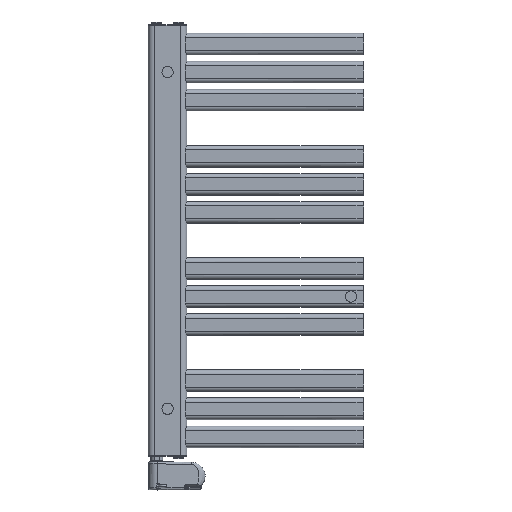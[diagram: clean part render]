
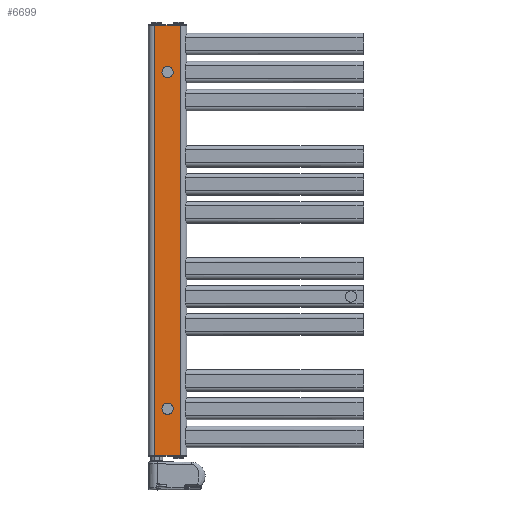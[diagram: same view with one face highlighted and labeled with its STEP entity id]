
A CAD part, top view. The second image highlights one B-rep face of the part: STEP entity #6699.
In plain terms, the highlighted planar face has unit normal (0, 0, 1).
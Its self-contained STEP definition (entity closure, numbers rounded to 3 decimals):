
#3202=DIRECTION('',(0.,1.,0.));
#3203=VECTOR('',#3202,996.4);
#3204=CARTESIAN_POINT('',(75.,2.,15.));
#3205=LINE('',#3204,#3203);
#3941=DIRECTION('',(1.,0.,0.));
#3942=VECTOR('',#3941,60.);
#3943=CARTESIAN_POINT('',(15.,998.4,15.));
#3944=LINE('',#3943,#3942);
#3948=DIRECTION('',(-1.,0.,0.));
#3949=VECTOR('',#3948,60.);
#3950=CARTESIAN_POINT('',(75.,2.,15.));
#3951=LINE('',#3950,#3949);
#3955=DIRECTION('',(0.,1.,0.));
#3956=VECTOR('',#3955,996.4);
#3957=CARTESIAN_POINT('',(15.,2.,15.));
#3958=LINE('',#3957,#3956);
#3962=CARTESIAN_POINT('',(45.,890.2,15.));
#3963=DIRECTION('',(0.,0.,1.));
#3964=DIRECTION('',(1.,0.,0.));
#3965=AXIS2_PLACEMENT_3D('',#3962,#3963,#3964);
#3970=CARTESIAN_POINT('',(45.,890.2,15.));
#3971=DIRECTION('',(0.,0.,1.));
#3972=DIRECTION('',(-1.,0.,0.));
#3973=AXIS2_PLACEMENT_3D('',#3970,#3971,#3972);
#3978=CARTESIAN_POINT('',(45.,110.2,15.));
#3979=DIRECTION('',(0.,0.,1.));
#3980=DIRECTION('',(1.,0.,0.));
#3981=AXIS2_PLACEMENT_3D('',#3978,#3979,#3980);
#3986=CARTESIAN_POINT('',(45.,110.2,15.));
#3987=DIRECTION('',(0.,0.,1.));
#3988=DIRECTION('',(-1.,0.,0.));
#3989=AXIS2_PLACEMENT_3D('',#3986,#3987,#3988);
#5252=CARTESIAN_POINT('',(15.,998.4,15.));
#5253=VERTEX_POINT('',#5252);
#5256=CARTESIAN_POINT('',(75.,998.4,15.));
#5257=VERTEX_POINT('',#5256);
#5262=CARTESIAN_POINT('',(75.,2.,15.));
#5263=CARTESIAN_POINT('',(15.,2.,15.));
#5264=VERTEX_POINT('',#5262);
#5265=VERTEX_POINT('',#5263);
#5314=CARTESIAN_POINT('',(54.75,890.2,15.));
#5315=CARTESIAN_POINT('',(35.25,890.2,15.));
#5316=VERTEX_POINT('',#5314);
#5317=VERTEX_POINT('',#5315);
#5318=CARTESIAN_POINT('',(54.75,110.2,15.));
#5319=CARTESIAN_POINT('',(35.25,110.2,15.));
#5320=VERTEX_POINT('',#5318);
#5321=VERTEX_POINT('',#5319);
#6675=CARTESIAN_POINT('',(15.,0.,15.));
#6676=DIRECTION('',(0.,0.,1.));
#6677=DIRECTION('',(1.,0.,0.));
#6678=AXIS2_PLACEMENT_3D('',#6675,#6676,#6677);
#6679=PLANE('',#6678);
#6681=ORIENTED_EDGE('',*,*,#6680,.T.);
#6682=ORIENTED_EDGE('',*,*,#5817,.F.);
#6684=ORIENTED_EDGE('',*,*,#6683,.T.);
#6686=ORIENTED_EDGE('',*,*,#6685,.T.);
#6687=EDGE_LOOP('',(#6681,#6682,#6684,#6686));
#6688=FACE_OUTER_BOUND('',#6687,.F.);
#6689=ORIENTED_EDGE('',*,*,#6655,.T.);
#6690=ORIENTED_EDGE('',*,*,#6669,.T.);
#6691=EDGE_LOOP('',(#6689,#6690));
#6692=FACE_BOUND('',#6691,.F.);
#6694=ORIENTED_EDGE('',*,*,#6693,.T.);
#6696=ORIENTED_EDGE('',*,*,#6695,.T.);
#6697=EDGE_LOOP('',(#6694,#6696));
#6698=FACE_BOUND('',#6697,.F.);
#3966=CIRCLE('',#3965,9.75);
#3974=CIRCLE('',#3973,9.75);
#3982=CIRCLE('',#3981,9.75);
#3990=CIRCLE('',#3989,9.75);
#5817=EDGE_CURVE('',#5264,#5257,#3205,.T.);
#6655=EDGE_CURVE('',#5316,#5317,#3966,.T.);
#6669=EDGE_CURVE('',#5317,#5316,#3974,.T.);
#6680=EDGE_CURVE('',#5253,#5257,#3944,.T.);
#6683=EDGE_CURVE('',#5264,#5265,#3951,.T.);
#6685=EDGE_CURVE('',#5265,#5253,#3958,.T.);
#6693=EDGE_CURVE('',#5320,#5321,#3982,.T.);
#6695=EDGE_CURVE('',#5321,#5320,#3990,.T.);
#6699=ADVANCED_FACE('',(#6688,#6692,#6698),#6679,.T.);
